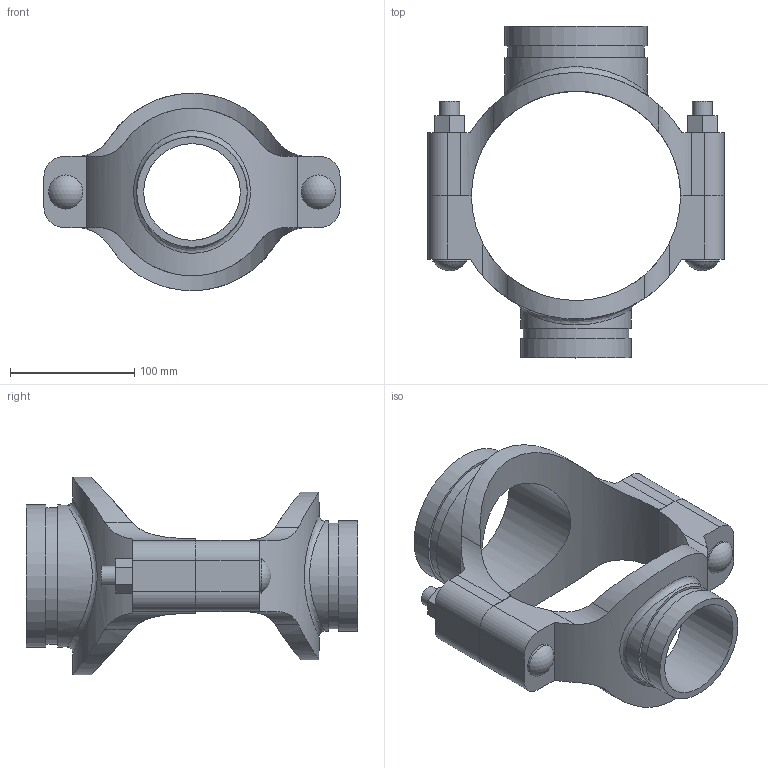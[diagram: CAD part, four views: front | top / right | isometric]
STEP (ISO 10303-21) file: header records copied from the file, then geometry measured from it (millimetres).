
FILE_DESCRIPTION(/* description */ ('VIC MECH-T BRANCH OUTLET CROSS STYLE 920N (GRVD)','CAx-IF Rec.Pracs.---Representation and Presentation of Product Manufacturing Information (PMI)---4.0---2014-10-13'),/* implementation_level */ '2;1');
FILE_NAME(/* name */ 'C:\Users\Vjadhav\AppData\Roaming\Autodesk\ApplicationPlugins\Back Up\Victaulic_IPS_Mechanical-Cross Outlet_Style 920N (OGS)\Victaulic_IPS_Mechanical-Cross Outlet_06.0x04.0x03.0 (150x100x80).stp',/* time_stamp */ '2020-08-06T19:45:01+05:00',/* author */ ('Vjadhav'),/* organization */ ('Victaulic'),/* preprocessor_version */ 'ST-DEVELOPER v17.2',/* originating_system */ 'Autodesk Inventor 2019',/* authorisation */ '');
FILE_SCHEMA (('AP242_MANAGED_MODEL_BASED_3D_ENGINEERING_MIM_LF { 1 0 10303 442 1 1 4 }'));
Length unit declared in the file: inch
Products named in the file (3): 920NG-06.0x04.0x03.0; 920G-06.0x04.0; 920G-06.0x03.0
Assembly tree (2 placements, depth 2):
  920NG-06.0x04.0x03.0
    920G-06.0x04.0
    920G-06.0x03.0
Bounding box: 238.25 x 266.95 x 158.74 mm (x, y, z)
Volume: 983581.3 mm3; surface area: 207591 mm2
Topology: 2 solids, 2 shells, 104 faces, 262 edges, 178 vertices
Faces by surface type: plane 54, cylinder 46, sphere 2, bspline 2
Full cylindrical faces by diameter (mm): 15.875 x4, 27.381 x2, 77.787 x1, 84.938 x1, 88.9 x2, 102.394 x1, 110.084 x1, 114.3 x2
Entity records: 4230 total; most frequent: CARTESIAN_POINT 1457, DIRECTION 532, ORIENTED_EDGE 524, EDGE_CURVE 262, AXIS2_PLACEMENT_3D 193, VERTEX_POINT 178, LINE 146, VECTOR 146
